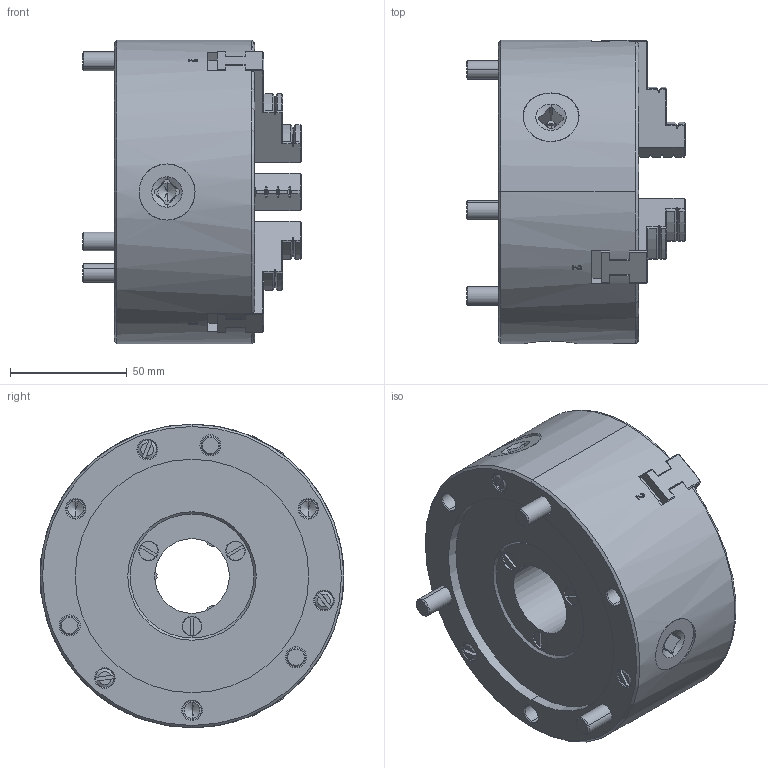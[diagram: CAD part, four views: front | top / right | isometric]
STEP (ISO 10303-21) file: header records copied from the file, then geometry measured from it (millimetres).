
FILE_DESCRIPTION (( 'STEP AP214' ), '1' );
FILE_NAME ('SC-5F-113.STEP', '2025-06-06T04:37:46', ( '' ), ( '' ), 'SwSTEP 2.0', 'SolidWorks 2022', '' );
FILE_SCHEMA (( 'AUTOMOTIVE_DESIGN' ));
Length unit declared in the file: millimetre
Products named in the file (1): SC-5F-113
Bounding box: 93.6 x 130 x 130 mm (x, y, z)
Volume: 726718.4 mm3; surface area: 86840.3 mm2
Topology: 1 solids, 4 shells, 1243 faces, 3356 edges, 2173 vertices
Faces by surface type: plane 658, bspline 280, cone 137, cylinder 128, torus 38, sphere 2
Entity records: 49479 total; most frequent: CARTESIAN_POINT 20355, ORIENTED_EDGE 6676, DIRECTION 4885, EDGE_CURVE 3338, VERTEX_POINT 2173, VECTOR 1995, LINE 1995, AXIS2_PLACEMENT_3D 1445
